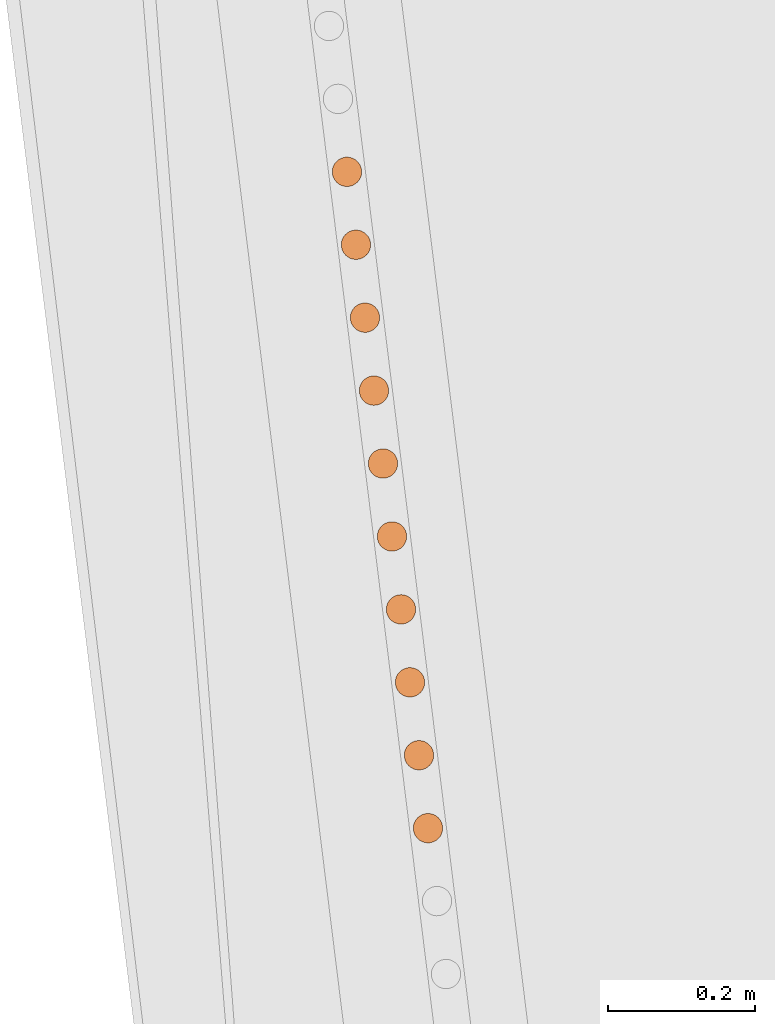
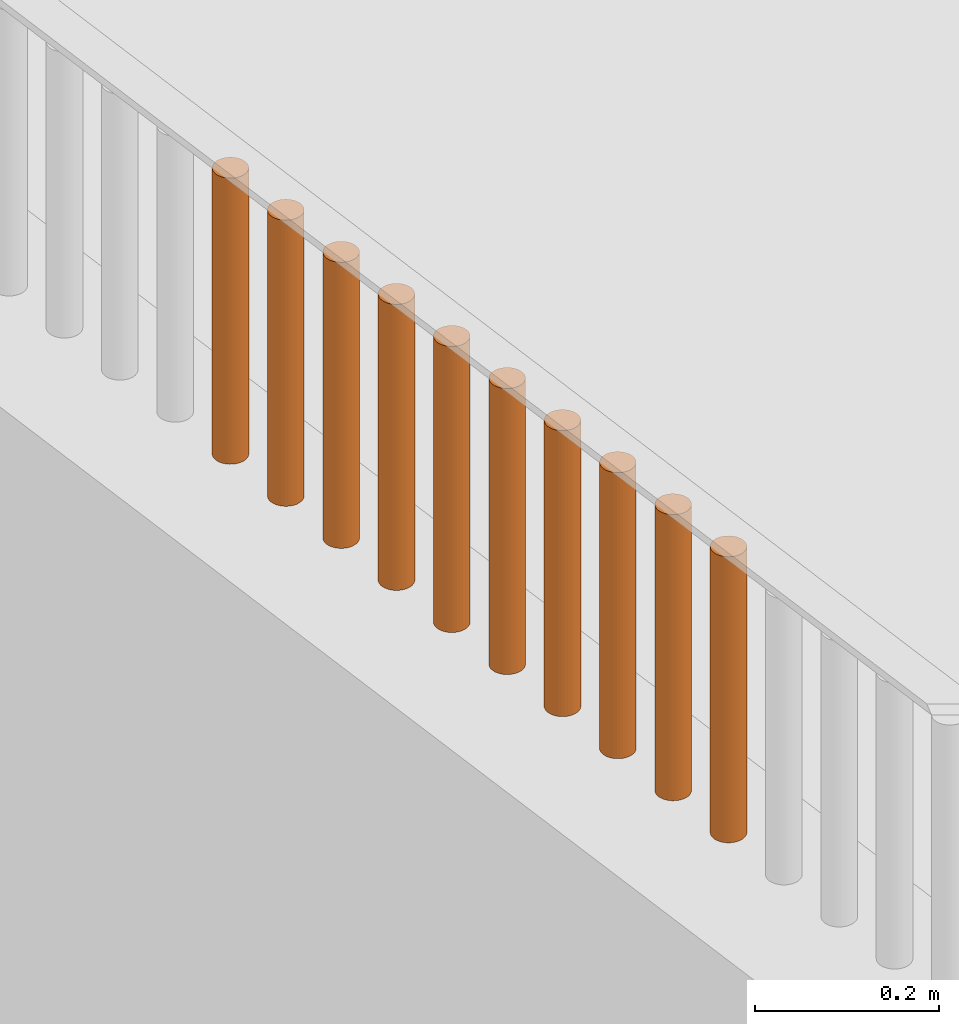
# One storey, part 58 of 1809: 10 proxies, 1 element without a shape of its own.
"""IFC2X3 building model written with IfcOpenShell, lengths in millimetres."""

from ifc_helpers import new_model, entity, si_unit, converted_unit, derived_unit, money_unit, direction, frame, origin_with_axes, place, context, subcontext, project, spatial, faceted_brep, source, transform, mapped, material, type_object, element, aggregate, save


model = new_model("IFC2X3")

# Units and contexts
model_context = context("Model", 3, precision=0.01, world=origin_with_axes(), true_north=direction((0.0, 1.0)))
body_context = subcontext(model_context, "Body", "Model", "MODEL_VIEW")
ifc_project = project(units=[si_unit("LENGTHUNIT", "METRE", prefix="MILLI"), si_unit("AREAUNIT", "SQUARE_METRE"), si_unit("VOLUMEUNIT", "CUBIC_METRE"), converted_unit("PLANEANGLEUNIT", "DEGREE", entity("IfcPlaneAngleMeasure", 0.0174532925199), si_unit("PLANEANGLEUNIT", "RADIAN"), dimensions=[0, 0, 0, 0, 0, 0, 0]), si_unit("SOLIDANGLEUNIT", "STERADIAN"), money_unit("EUR"), converted_unit("TIMEUNIT", "Year", entity("IfcTimeMeasure", 31556926.0), si_unit("TIMEUNIT", "SECOND"), dimensions=[0, 0, 1, 0, 0, 0, 0]), si_unit("MASSUNIT", "GRAM", prefix="KILO"), si_unit("THERMODYNAMICTEMPERATUREUNIT", "DEGREE_CELSIUS"), si_unit("LUMINOUSINTENSITYUNIT", "LUMEN"), si_unit("ENERGYUNIT", "JOULE", prefix="MEGA"), derived_unit("THERMALCONDUCTANCEUNIT", [(si_unit("POWERUNIT", "WATT"), 1), (si_unit("LENGTHUNIT", "METRE"), -1), (si_unit("THERMODYNAMICTEMPERATUREUNIT", "KELVIN"), -1)]), derived_unit("SPECIFICHEATCAPACITYUNIT", [(si_unit("ENERGYUNIT", "JOULE"), 1), (si_unit("MASSUNIT", "GRAM", prefix="KILO"), -1), (si_unit("THERMODYNAMICTEMPERATUREUNIT", "KELVIN"), -1)]), derived_unit("MASSDENSITYUNIT", [(si_unit("MASSUNIT", "GRAM", prefix="KILO"), 1), (si_unit("VOLUMEUNIT", "CUBIC_METRE"), -1)])], contexts=[model_context])

# Site, building, storey
site_placement = place(None, origin_with_axes())
site = spatial("IfcSite", under=ifc_project, at=site_placement, Name="Politse- ja Piirivalveameti ning Päästeameti ühishoone", CompositionType="ELEMENT")
building_placement = place(site_placement, origin_with_axes())
building = spatial("IfcBuilding", under=site, at=building_placement, Name="Politse- ja Piirivalveameti ning Päästeameti ühishoone", CompositionType="ELEMENT")
storey_placement = place(building_placement, origin_with_axes())
storey = spatial("IfcBuildingStorey", under=building, at=storey_placement, Name="Esimene korrus", CompositionType="ELEMENT", Elevation=0.0)

# Proxies
building_element_proxy_type_1 = type_object("IfcBuildingElementProxyType", Name="Railing Type", PredefinedType="NOTDEFINED")
proxy_1_placement = place(storey_placement, frame((-18956.5522504, -53688.4757966, 2100.0), z_axis=(0.0, 0.0, 1.0), x_axis=(1.0, 0.0, 0.0)))
proxy_1 = element("IfcBuildingElementProxy", 1, at=proxy_1_placement, inside=storey, type_object=building_element_proxy_type_1, Name="PIIRDEAED")
ifc_material = material(Name="ET-06_Teras - Konstruktsioon")
building_element_proxy_type_2 = type_object("IfcBuildingElementProxyType", Name="IfcBuildingElementProxy", PredefinedType="NOTDEFINED")
shared_shape_1 = source(origin_with_axes(), body_context, "Body", "Brep", [
    faceted_brep([(0.0, -20.0, 0.0), (3.47296355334, -19.6961550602, 0.0), (3.47296355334, -19.6961550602, 380.000012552), (0.0, -20.0, 380.000012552), (-3.47296355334, -19.6961550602, 0.0), (-6.84040286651, -18.7938524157, 0.0), (-10.0, -17.3205080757, 0.0), (-12.8557521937, -15.3208888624, 0.0), (-15.3208888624, -12.8557521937, 0.0), (-17.3205080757, -10.0, 0.0), (-18.7938524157, -6.84040286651, 0.0), (-19.6961550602, -3.47296355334, 0.0), (-20.0, 0.0, 0.0), (-19.6961550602, 3.47296355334, 0.0), (-18.7938524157, 6.84040286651, 0.0), (-17.3205080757, 10.0, 0.0), (-15.3208888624, 12.8557521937, 0.0), (-12.8557521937, 15.3208888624, 0.0), (-10.0, 17.3205080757, 0.0), (-6.84040286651, 18.7938524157, 0.0), (-3.47296355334, 19.6961550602, 0.0), (0.0, 20.0, 0.0), (3.47296355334, 19.6961550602, 0.0), (6.84040286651, 18.7938524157, 0.0), (10.0, 17.3205080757, 0.0), (12.8557521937, 15.3208888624, 0.0), (15.3208888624, 12.8557521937, 0.0), (17.3205080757, 10.0, 0.0), (18.7938524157, 6.84040286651, 0.0), (19.6961550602, 3.47296355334, 0.0), (20.0, 0.0, 0.0), (19.6961550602, -3.47296355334, 0.0), (18.7938524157, -6.84040286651, 0.0), (17.3205080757, -10.0, 0.0), (15.3208888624, -12.8557521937, 0.0), (12.8557521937, -15.3208888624, 0.0), (10.0, -17.3205080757, 0.0), (6.84040286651, -18.7938524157, 0.0), (6.84040286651, -18.7938524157, 380.000012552), (10.0, -17.3205080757, 380.000012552), (12.8557521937, -15.3208888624, 380.000012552), (15.3208888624, -12.8557521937, 380.000012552), (17.3205080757, -10.0, 380.000012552), (18.7938524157, -6.84040286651, 380.000012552), (19.6961550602, -3.47296355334, 380.000012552), (20.0, 0.0, 380.000012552), (19.6961550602, 3.47296355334, 380.000012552), (18.7938524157, 6.84040286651, 380.000012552), (17.3205080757, 10.0, 380.000012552), (15.3208888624, 12.8557521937, 380.000012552), (12.8557521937, 15.3208888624, 380.000012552), (10.0, 17.3205080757, 380.000012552), (6.84040286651, 18.7938524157, 380.000012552), (3.47296355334, 19.6961550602, 380.000012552), (0.0, 20.0, 380.000012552), (-3.47296355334, 19.6961550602, 380.000012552), (-6.84040286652, 18.7938524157, 380.000012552), (-10.0, 17.3205080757, 380.000012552), (-12.8557521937, 15.3208888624, 380.000012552), (-15.3208888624, 12.8557521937, 380.000012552), (-17.3205080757, 10.0, 380.000012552), (-18.7938524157, 6.84040286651, 380.000012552), (-19.6961550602, 3.47296355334, 380.000012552), (-20.0, 0.0, 380.000012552), (-19.6961550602, -3.47296355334, 380.000012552), (-18.7938524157, -6.84040286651, 380.000012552), (-17.3205080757, -10.0, 380.000012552), (-15.3208888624, -12.8557521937, 380.000012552), (-12.8557521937, -15.3208888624, 380.000012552), (-10.0, -17.3205080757, 380.000012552), (-6.84040286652, -18.7938524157, 380.000012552), (-3.47296355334, -19.6961550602, 380.000012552)], [[[0, 1, 2, 3]], [[0, 4, 5, 6, 7, 8, 9, 10, 11, 12, 13, 14, 15, 16, 17, 18, 19, 20, 21, 22, 23, 24, 25, 26, 27, 28, 29, 30, 31, 32, 33, 34, 35, 36, 37, 1]], [[1, 37, 38, 2]], [[3, 2, 38, 39, 40, 41, 42, 43, 44, 45, 46, 47, 48, 49, 50, 51, 52, 53, 54, 55, 56, 57, 58, 59, 60, 61, 62, 63, 64, 65, 66, 67, 68, 69, 70, 71]], [[4, 0, 3, 71]], [[5, 4, 71, 70]], [[6, 5, 70, 69]], [[7, 6, 69, 68]], [[8, 7, 68, 67]], [[9, 8, 67, 66]], [[10, 9, 66, 65]], [[11, 10, 65, 64]], [[12, 11, 64, 63]], [[13, 12, 63, 62]], [[14, 13, 62, 61]], [[15, 14, 61, 60]], [[16, 15, 60, 59]], [[17, 16, 59, 58]], [[18, 17, 58, 57]], [[19, 18, 57, 56]], [[20, 19, 56, 55]], [[21, 20, 55, 54]], [[22, 21, 54, 53]], [[23, 22, 53, 52]], [[24, 23, 52, 51]], [[25, 24, 51, 50]], [[26, 25, 50, 49]], [[27, 26, 49, 48]], [[28, 27, 48, 47]], [[29, 28, 47, 46]], [[30, 29, 46, 45]], [[31, 30, 45, 44]], [[32, 31, 44, 43]], [[33, 32, 43, 42]], [[34, 33, 42, 41]], [[35, 34, 41, 40]], [[36, 35, 40, 39]], [[37, 36, 39, 38]]]),
])
proxy_2_placement = place(proxy_1_placement, frame((-460.453990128, 2896.3445879, -1.25517001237e-05), z_axis=(0.0, 0.0, 1.0), x_axis=(1.0, 0.0, 0.0)))
proxy_2 = element("IfcBuildingElementProxy", 2, at=proxy_2_placement, type_object=building_element_proxy_type_2, material=ifc_material, Name="BALUSTER - 001", context=body_context, shape_type="MappedRepresentation", body=[
    mapped(shared_shape_1, transform((0.0, 0.0, 0.0), x_axis=(0.992468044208, 0.122503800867, 0.0), y_axis=(-0.122503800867, 0.992468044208, 0.0), z_axis=(0.0, 0.0, 1.0))),
])
proxy_3_placement = place(proxy_1_placement, frame((-497.197104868, 3194.01998217, -1.25517001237e-05), z_axis=(0.0, 0.0, 1.0), x_axis=(1.0, 0.0, 0.0)))
proxy_3 = element("IfcBuildingElementProxy", 3, at=proxy_3_placement, type_object=building_element_proxy_type_2, material=ifc_material, Name="BALUSTER - 001", context=body_context, shape_type="MappedRepresentation", body=[
    mapped(shared_shape_1, transform((0.0, 0.0, 0.0), x_axis=(0.992468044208, 0.122503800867, 0.0), y_axis=(-0.122503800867, 0.992468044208, 0.0), z_axis=(0.0, 0.0, 1.0))),
])
proxy_4_placement = place(proxy_1_placement, frame((-521.692514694, 3392.47024503, -1.25517001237e-05), z_axis=(0.0, 0.0, 1.0), x_axis=(1.0, 0.0, 0.0)))
proxy_4 = element("IfcBuildingElementProxy", 4, at=proxy_4_placement, type_object=building_element_proxy_type_2, material=ifc_material, Name="BALUSTER - 001", context=body_context, shape_type="MappedRepresentation", body=[
    mapped(shared_shape_1, transform((0.0, 0.0, 0.0), x_axis=(0.992468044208, 0.122503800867, 0.0), y_axis=(-0.122503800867, 0.992468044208, 0.0), z_axis=(0.0, 0.0, 1.0))),
])
shared_shape_2 = source(origin_with_axes(), body_context, "Body", "Brep", [
    faceted_brep([(0.0, -20.0, 0.0), (3.47296355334, -19.6961550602, 0.0), (3.47296355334, -19.6961550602, 380.000012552), (0.0, -20.0, 380.000012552), (-3.47296355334, -19.6961550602, 0.0), (-6.84040286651, -18.7938524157, 0.0), (-10.0, -17.3205080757, 0.0), (-12.8557521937, -15.3208888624, 0.0), (-15.3208888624, -12.8557521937, 0.0), (-17.3205080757, -10.0, 0.0), (-18.7938524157, -6.84040286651, 0.0), (-19.6961550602, -3.47296355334, 0.0), (-20.0, 0.0, 0.0), (-19.6961550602, 3.47296355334, 0.0), (-18.7938524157, 6.84040286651, 0.0), (-17.3205080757, 10.0, 0.0), (-15.3208888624, 12.8557521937, 0.0), (-12.8557521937, 15.3208888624, 0.0), (-10.0, 17.3205080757, 0.0), (-6.84040286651, 18.7938524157, 0.0), (-3.47296355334, 19.6961550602, 0.0), (0.0, 20.0, 0.0), (3.47296355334, 19.6961550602, 0.0), (6.84040286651, 18.7938524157, 0.0), (10.0, 17.3205080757, 0.0), (12.8557521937, 15.3208888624, 0.0), (15.3208888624, 12.8557521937, 0.0), (17.3205080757, 10.0, 0.0), (18.7938524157, 6.84040286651, 0.0), (19.6961550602, 3.47296355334, 0.0), (20.0, 0.0, 0.0), (19.6961550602, -3.47296355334, 0.0), (18.7938524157, -6.84040286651, 0.0), (17.3205080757, -10.0, 0.0), (15.3208888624, -12.8557521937, 0.0), (12.8557521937, -15.3208888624, 0.0), (10.0, -17.3205080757, 0.0), (6.84040286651, -18.7938524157, 0.0), (6.84040286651, -18.7938524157, 380.000012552), (10.0, -17.3205080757, 380.000012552), (12.8557521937, -15.3208888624, 380.000012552), (15.3208888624, -12.8557521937, 380.000012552), (17.3205080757, -10.0, 380.000012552), (18.7938524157, -6.84040286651, 380.000012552), (19.6961550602, -3.47296355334, 380.000012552), (20.0, 0.0, 380.000012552), (19.6961550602, 3.47296355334, 380.000012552), (18.7938524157, 6.84040286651, 380.000012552), (17.3205080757, 10.0, 380.000012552), (15.3208888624, 12.8557521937, 380.000012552), (12.8557521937, 15.3208888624, 380.000012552), (10.0, 17.3205080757, 380.000012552), (6.84040286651, 18.7938524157, 380.000012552), (3.47296355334, 19.6961550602, 380.000012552), (0.0, 20.0, 380.000012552), (-3.47296355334, 19.6961550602, 380.000012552), (-6.84040286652, 18.7938524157, 380.000012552), (-10.0, 17.3205080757, 380.000012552), (-12.8557521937, 15.3208888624, 380.000012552), (-15.3208888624, 12.8557521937, 380.000012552), (-17.3205080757, 10.0, 380.000012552), (-18.7938524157, 6.84040286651, 380.000012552), (-19.6961550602, 3.47296355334, 380.000012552), (-20.0, 0.0, 380.000012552), (-19.6961550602, -3.47296355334, 380.000012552), (-18.7938524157, -6.84040286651, 380.000012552), (-17.3205080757, -10.0, 380.000012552), (-15.3208888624, -12.8557521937, 380.000012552), (-12.8557521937, -15.3208888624, 380.000012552), (-10.0, -17.3205080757, 380.000012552), (-6.84040286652, -18.7938524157, 380.000012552), (-3.47296355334, -19.6961550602, 380.000012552)], [[[0, 1, 2, 3]], [[0, 4, 5, 6, 7, 8, 9, 10, 11, 12, 13, 14, 15, 16, 17, 18, 19, 20, 21, 22, 23, 24, 25, 26, 27, 28, 29, 30, 31, 32, 33, 34, 35, 36, 37, 1]], [[1, 37, 38, 2]], [[3, 2, 38, 39, 40, 41, 42, 43, 44, 45, 46, 47, 48, 49, 50, 51, 52, 53, 54, 55, 56, 57, 58, 59, 60, 61, 62, 63, 64, 65, 66, 67, 68, 69, 70, 71]], [[4, 0, 3, 71]], [[5, 4, 71, 70]], [[6, 5, 70, 69]], [[7, 6, 69, 68]], [[8, 7, 68, 67]], [[9, 8, 67, 66]], [[10, 9, 66, 65]], [[11, 10, 65, 64]], [[12, 11, 64, 63]], [[13, 12, 63, 62]], [[14, 13, 62, 61]], [[15, 14, 61, 60]], [[16, 15, 60, 59]], [[17, 16, 59, 58]], [[18, 17, 58, 57]], [[19, 18, 57, 56]], [[20, 19, 56, 55]], [[21, 20, 55, 54]], [[22, 21, 54, 53]], [[23, 22, 53, 52]], [[24, 23, 52, 51]], [[25, 24, 51, 50]], [[26, 25, 50, 49]], [[27, 26, 49, 48]], [[28, 27, 48, 47]], [[29, 28, 47, 46]], [[30, 29, 46, 45]], [[31, 30, 45, 44]], [[32, 31, 44, 43]], [[33, 32, 43, 42]], [[34, 33, 42, 41]], [[35, 34, 41, 40]], [[36, 35, 40, 39]], [[37, 36, 39, 38]]]),
])
proxy_5_placement = place(proxy_1_placement, frame((-448.206285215, 2797.11945647, -1.25517001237e-05), z_axis=(0.0, 0.0, 1.0), x_axis=(1.0, 0.0, 0.0)))
proxy_5 = element("IfcBuildingElementProxy", 5, at=proxy_5_placement, type_object=building_element_proxy_type_2, material=ifc_material, Name="BALUSTER - 001", context=body_context, shape_type="MappedRepresentation", body=[
    mapped(shared_shape_2, transform((0.0, 0.0, 0.0), x_axis=(0.992468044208, 0.122503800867, 0.0), y_axis=(-0.122503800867, 0.992468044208, 0.0), z_axis=(0.0, 0.0, 1.0))),
])
proxy_6_placement = place(proxy_1_placement, frame((-484.949399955, 3094.79485075, -1.25517001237e-05), z_axis=(0.0, 0.0, 1.0), x_axis=(1.0, 0.0, 0.0)))
proxy_6 = element("IfcBuildingElementProxy", 6, at=proxy_6_placement, type_object=building_element_proxy_type_2, material=ifc_material, Name="BALUSTER - 001", context=body_context, shape_type="MappedRepresentation", body=[
    mapped(shared_shape_2, transform((0.0, 0.0, 0.0), x_axis=(0.992468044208, 0.122503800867, 0.0), y_axis=(-0.122503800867, 0.992468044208, 0.0), z_axis=(0.0, 0.0, 1.0))),
])
shared_shape_3 = source(origin_with_axes(), body_context, "Body", "Brep", [
    faceted_brep([(0.0, -20.0, 0.0), (3.47296355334, -19.6961550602, 0.0), (3.47296355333, -19.6961550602, 380.000012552), (0.0, -20.0, 380.000012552), (-3.47296355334, -19.6961550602, 0.0), (-6.84040286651, -18.7938524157, 0.0), (-10.0, -17.3205080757, 0.0), (-12.8557521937, -15.3208888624, 0.0), (-15.3208888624, -12.8557521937, 0.0), (-17.3205080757, -10.0, 0.0), (-18.7938524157, -6.84040286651, 0.0), (-19.6961550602, -3.47296355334, 0.0), (-20.0, 0.0, 0.0), (-19.6961550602, 3.47296355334, 0.0), (-18.7938524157, 6.84040286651, 0.0), (-17.3205080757, 10.0, 0.0), (-15.3208888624, 12.8557521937, 0.0), (-12.8557521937, 15.3208888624, 0.0), (-10.0, 17.3205080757, 0.0), (-6.84040286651, 18.7938524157, 0.0), (-3.47296355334, 19.6961550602, 0.0), (0.0, 20.0, 0.0), (3.47296355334, 19.6961550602, 0.0), (6.84040286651, 18.7938524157, 0.0), (10.0, 17.3205080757, 0.0), (12.8557521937, 15.3208888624, 0.0), (15.3208888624, 12.8557521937, 0.0), (17.3205080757, 10.0, 0.0), (18.7938524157, 6.84040286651, 0.0), (19.6961550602, 3.47296355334, 0.0), (20.0, 0.0, 0.0), (19.6961550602, -3.47296355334, 0.0), (18.7938524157, -6.84040286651, 0.0), (17.3205080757, -10.0, 0.0), (15.3208888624, -12.8557521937, 0.0), (12.8557521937, -15.3208888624, 0.0), (10.0, -17.3205080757, 0.0), (6.84040286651, -18.7938524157, 0.0), (6.84040286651, -18.7938524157, 380.000012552), (9.99999999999, -17.3205080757, 380.000012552), (12.8557521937, -15.3208888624, 380.000012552), (15.3208888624, -12.8557521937, 380.000012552), (17.3205080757, -10.0, 380.000012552), (18.7938524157, -6.84040286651, 380.000012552), (19.6961550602, -3.47296355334, 380.000012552), (20.0, 0.0, 380.000012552), (19.6961550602, 3.47296355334, 380.000012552), (18.7938524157, 6.84040286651, 380.000012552), (17.3205080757, 10.0, 380.000012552), (15.3208888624, 12.8557521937, 380.000012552), (12.8557521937, 15.3208888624, 380.000012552), (9.99999999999, 17.3205080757, 380.000012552), (6.84040286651, 18.7938524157, 380.000012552), (3.47296355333, 19.6961550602, 380.000012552), (0.0, 20.0, 380.000012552), (-3.47296355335, 19.6961550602, 380.000012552), (-6.84040286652, 18.7938524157, 380.000012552), (-10.0, 17.3205080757, 380.000012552), (-12.8557521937, 15.3208888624, 380.000012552), (-15.3208888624, 12.8557521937, 380.000012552), (-17.3205080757, 10.0, 380.000012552), (-18.7938524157, 6.84040286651, 380.000012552), (-19.6961550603, 3.47296355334, 380.000012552), (-20.0, 0.0, 380.000012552), (-19.6961550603, -3.47296355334, 380.000012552), (-18.7938524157, -6.84040286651, 380.000012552), (-17.3205080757, -10.0, 380.000012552), (-15.3208888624, -12.8557521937, 380.000012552), (-12.8557521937, -15.3208888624, 380.000012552), (-10.0, -17.3205080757, 380.000012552), (-6.84040286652, -18.7938524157, 380.000012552), (-3.47296355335, -19.6961550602, 380.000012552)], [[[0, 1, 2, 3]], [[0, 4, 5, 6, 7, 8, 9, 10, 11, 12, 13, 14, 15, 16, 17, 18, 19, 20, 21, 22, 23, 24, 25, 26, 27, 28, 29, 30, 31, 32, 33, 34, 35, 36, 37, 1]], [[1, 37, 38, 2]], [[3, 2, 38, 39, 40, 41, 42, 43, 44, 45, 46, 47, 48, 49, 50, 51, 52, 53, 54, 55, 56, 57, 58, 59, 60, 61, 62, 63, 64, 65, 66, 67, 68, 69, 70, 71]], [[4, 0, 3, 71]], [[5, 4, 71, 70]], [[6, 5, 70, 69]], [[7, 6, 69, 68]], [[8, 7, 68, 67]], [[9, 8, 67, 66]], [[10, 9, 66, 65]], [[11, 10, 65, 64]], [[12, 11, 64, 63]], [[13, 12, 63, 62]], [[14, 13, 62, 61]], [[15, 14, 61, 60]], [[16, 15, 60, 59]], [[17, 16, 59, 58]], [[18, 17, 58, 57]], [[19, 18, 57, 56]], [[20, 19, 56, 55]], [[21, 20, 55, 54]], [[22, 21, 54, 53]], [[23, 22, 53, 52]], [[24, 23, 52, 51]], [[25, 24, 51, 50]], [[26, 25, 50, 49]], [[27, 26, 49, 48]], [[28, 27, 48, 47]], [[29, 28, 47, 46]], [[30, 29, 46, 45]], [[31, 30, 45, 44]], [[32, 31, 44, 43]], [[33, 32, 43, 42]], [[34, 33, 42, 41]], [[35, 34, 41, 40]], [[36, 35, 40, 39]], [[37, 36, 39, 38]]]),
])
proxy_7_placement = place(proxy_1_placement, frame((-546.18792452, 3590.92050788, -1.25517001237e-05), z_axis=(0.0, 0.0, 1.0), x_axis=(1.0, 0.0, 0.0)))
proxy_7 = element("IfcBuildingElementProxy", 7, at=proxy_7_placement, type_object=building_element_proxy_type_2, material=ifc_material, Name="BALUSTER - 001", context=body_context, shape_type="MappedRepresentation", body=[
    mapped(shared_shape_3, transform((0.0, 0.0, 0.0), x_axis=(0.992468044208, 0.122503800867, 0.0), y_axis=(-0.122503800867, 0.992468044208, 0.0), z_axis=(0.0, 0.0, 1.0))),
])
shared_shape_4 = source(origin_with_axes(), body_context, "Body", "Brep", [
    faceted_brep([(0.0, -20.0, 0.0), (3.47296355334, -19.6961550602, 0.0), (3.47296355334, -19.6961550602, 380.000012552), (0.0, -20.0, 380.000012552), (-3.47296355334, -19.6961550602, 0.0), (-6.84040286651, -18.7938524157, 0.0), (-10.0, -17.3205080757, 0.0), (-12.8557521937, -15.3208888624, 0.0), (-15.3208888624, -12.8557521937, 0.0), (-17.3205080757, -10.0, 0.0), (-18.7938524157, -6.84040286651, 0.0), (-19.6961550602, -3.47296355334, 0.0), (-20.0, 0.0, 0.0), (-19.6961550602, 3.47296355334, 0.0), (-18.7938524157, 6.84040286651, 0.0), (-17.3205080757, 10.0, 0.0), (-15.3208888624, 12.8557521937, 0.0), (-12.8557521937, 15.3208888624, 0.0), (-10.0, 17.3205080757, 0.0), (-6.84040286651, 18.7938524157, 0.0), (-3.47296355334, 19.6961550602, 0.0), (0.0, 20.0, 0.0), (3.47296355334, 19.6961550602, 0.0), (6.84040286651, 18.7938524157, 0.0), (10.0, 17.3205080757, 0.0), (12.8557521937, 15.3208888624, 0.0), (15.3208888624, 12.8557521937, 0.0), (17.3205080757, 10.0, 0.0), (18.7938524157, 6.84040286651, 0.0), (19.6961550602, 3.47296355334, 0.0), (20.0, 0.0, 0.0), (19.6961550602, -3.47296355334, 0.0), (18.7938524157, -6.84040286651, 0.0), (17.3205080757, -10.0, 0.0), (15.3208888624, -12.8557521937, 0.0), (12.8557521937, -15.3208888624, 0.0), (10.0, -17.3205080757, 0.0), (6.84040286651, -18.7938524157, 0.0), (6.84040286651, -18.7938524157, 380.000012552), (10.0, -17.3205080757, 380.000012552), (12.8557521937, -15.3208888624, 380.000012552), (15.3208888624, -12.8557521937, 380.000012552), (17.3205080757, -10.0, 380.000012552), (18.7938524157, -6.84040286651, 380.000012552), (19.6961550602, -3.47296355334, 380.000012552), (20.0, 0.0, 380.000012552), (19.6961550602, 3.47296355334, 380.000012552), (18.7938524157, 6.84040286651, 380.000012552), (17.3205080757, 10.0, 380.000012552), (15.3208888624, 12.8557521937, 380.000012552), (12.8557521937, 15.3208888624, 380.000012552), (10.0, 17.3205080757, 380.000012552), (6.84040286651, 18.7938524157, 380.000012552), (3.47296355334, 19.6961550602, 380.000012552), (0.0, 20.0, 380.000012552), (-3.47296355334, 19.6961550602, 380.000012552), (-6.84040286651, 18.7938524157, 380.000012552), (-10.0, 17.3205080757, 380.000012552), (-12.8557521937, 15.3208888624, 380.000012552), (-15.3208888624, 12.8557521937, 380.000012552), (-17.3205080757, 10.0, 380.000012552), (-18.7938524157, 6.84040286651, 380.000012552), (-19.6961550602, 3.47296355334, 380.000012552), (-20.0, 0.0, 380.000012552), (-19.6961550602, -3.47296355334, 380.000012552), (-18.7938524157, -6.84040286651, 380.000012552), (-17.3205080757, -10.0, 380.000012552), (-15.3208888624, -12.8557521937, 380.000012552), (-12.8557521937, -15.3208888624, 380.000012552), (-10.0, -17.3205080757, 380.000012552), (-6.84040286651, -18.7938524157, 380.000012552), (-3.47296355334, -19.6961550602, 380.000012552)], [[[0, 1, 2, 3]], [[0, 4, 5, 6, 7, 8, 9, 10, 11, 12, 13, 14, 15, 16, 17, 18, 19, 20, 21, 22, 23, 24, 25, 26, 27, 28, 29, 30, 31, 32, 33, 34, 35, 36, 37, 1]], [[1, 37, 38, 2]], [[3, 2, 38, 39, 40, 41, 42, 43, 44, 45, 46, 47, 48, 49, 50, 51, 52, 53, 54, 55, 56, 57, 58, 59, 60, 61, 62, 63, 64, 65, 66, 67, 68, 69, 70, 71]], [[4, 0, 3, 71]], [[5, 4, 71, 70]], [[6, 5, 70, 69]], [[7, 6, 69, 68]], [[8, 7, 68, 67]], [[9, 8, 67, 66]], [[10, 9, 66, 65]], [[11, 10, 65, 64]], [[12, 11, 64, 63]], [[13, 12, 63, 62]], [[14, 13, 62, 61]], [[15, 14, 61, 60]], [[16, 15, 60, 59]], [[17, 16, 59, 58]], [[18, 17, 58, 57]], [[19, 18, 57, 56]], [[20, 19, 56, 55]], [[21, 20, 55, 54]], [[22, 21, 54, 53]], [[23, 22, 53, 52]], [[24, 23, 52, 51]], [[25, 24, 51, 50]], [[26, 25, 50, 49]], [[27, 26, 49, 48]], [[28, 27, 48, 47]], [[29, 28, 47, 46]], [[30, 29, 46, 45]], [[31, 30, 45, 44]], [[32, 31, 44, 43]], [[33, 32, 43, 42]], [[34, 33, 42, 41]], [[35, 34, 41, 40]], [[36, 35, 40, 39]], [[37, 36, 39, 38]]]),
])
proxy_8_placement = place(proxy_1_placement, frame((-472.701695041, 2995.56971932, -1.25517001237e-05), z_axis=(0.0, 0.0, 1.0), x_axis=(1.0, 0.0, 0.0)))
proxy_8 = element("IfcBuildingElementProxy", 8, at=proxy_8_placement, type_object=building_element_proxy_type_2, material=ifc_material, Name="BALUSTER - 001", context=body_context, shape_type="MappedRepresentation", body=[
    mapped(shared_shape_4, transform((0.0, 0.0, 0.0), x_axis=(0.992468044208, 0.122503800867, 0.0), y_axis=(-0.122503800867, 0.992468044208, 0.0), z_axis=(0.0, 0.0, 1.0))),
])
proxy_9_placement = place(proxy_1_placement, frame((-509.444809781, 3293.2451136, -1.25517001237e-05), z_axis=(0.0, 0.0, 1.0), x_axis=(1.0, 0.0, 0.0)))
proxy_9 = element("IfcBuildingElementProxy", 9, at=proxy_9_placement, type_object=building_element_proxy_type_2, material=ifc_material, Name="BALUSTER - 001", context=body_context, shape_type="MappedRepresentation", body=[
    mapped(shared_shape_4, transform((0.0, 0.0, 0.0), x_axis=(0.992468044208, 0.122503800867, 0.0), y_axis=(-0.122503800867, 0.992468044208, 0.0), z_axis=(0.0, 0.0, 1.0))),
])
shared_shape_5 = source(origin_with_axes(), body_context, "Body", "Brep", [
    faceted_brep([(0.0, -20.0, 0.0), (3.47296355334, -19.6961550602, 0.0), (3.47296355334, -19.6961550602, 380.000012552), (0.0, -20.0, 380.000012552), (-3.47296355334, -19.6961550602, 0.0), (-6.84040286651, -18.7938524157, 0.0), (-10.0, -17.3205080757, 0.0), (-12.8557521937, -15.3208888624, 0.0), (-15.3208888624, -12.8557521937, 0.0), (-17.3205080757, -10.0, 0.0), (-18.7938524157, -6.84040286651, 0.0), (-19.6961550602, -3.47296355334, 0.0), (-20.0, 0.0, 0.0), (-19.6961550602, 3.47296355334, 0.0), (-18.7938524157, 6.84040286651, 0.0), (-17.3205080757, 10.0, 0.0), (-15.3208888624, 12.8557521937, 0.0), (-12.8557521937, 15.3208888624, 0.0), (-10.0, 17.3205080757, 0.0), (-6.84040286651, 18.7938524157, 0.0), (-3.47296355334, 19.6961550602, 0.0), (0.0, 20.0, 0.0), (3.47296355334, 19.6961550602, 0.0), (6.84040286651, 18.7938524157, 0.0), (10.0, 17.3205080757, 0.0), (12.8557521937, 15.3208888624, 0.0), (15.3208888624, 12.8557521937, 0.0), (17.3205080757, 10.0, 0.0), (18.7938524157, 6.84040286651, 0.0), (19.6961550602, 3.47296355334, 0.0), (20.0, 0.0, 0.0), (19.6961550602, -3.47296355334, 0.0), (18.7938524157, -6.84040286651, 0.0), (17.3205080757, -10.0, 0.0), (15.3208888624, -12.8557521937, 0.0), (12.8557521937, -15.3208888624, 0.0), (10.0, -17.3205080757, 0.0), (6.84040286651, -18.7938524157, 0.0), (6.84040286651, -18.7938524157, 380.000012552), (10.0, -17.3205080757, 380.000012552), (12.8557521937, -15.3208888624, 380.000012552), (15.3208888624, -12.8557521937, 380.000012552), (17.3205080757, -10.0, 380.000012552), (18.7938524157, -6.84040286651, 380.000012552), (19.6961550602, -3.47296355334, 380.000012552), (20.0, 0.0, 380.000012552), (19.6961550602, 3.47296355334, 380.000012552), (18.7938524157, 6.84040286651, 380.000012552), (17.3205080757, 10.0, 380.000012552), (15.3208888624, 12.8557521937, 380.000012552), (12.8557521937, 15.3208888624, 380.000012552), (10.0, 17.3205080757, 380.000012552), (6.84040286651, 18.7938524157, 380.000012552), (3.47296355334, 19.6961550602, 380.000012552), (0.0, 20.0, 380.000012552), (-3.47296355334, 19.6961550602, 380.000012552), (-6.84040286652, 18.7938524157, 380.000012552), (-10.0, 17.3205080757, 380.000012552), (-12.8557521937, 15.3208888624, 380.000012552), (-15.3208888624, 12.8557521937, 380.000012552), (-17.3205080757, 10.0, 380.000012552), (-18.7938524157, 6.84040286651, 380.000012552), (-19.6961550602, 3.47296355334, 380.000012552), (-20.0, 0.0, 380.000012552), (-19.6961550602, -3.47296355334, 380.000012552), (-18.7938524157, -6.84040286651, 380.000012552), (-17.3205080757, -10.0, 380.000012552), (-15.3208888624, -12.8557521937, 380.000012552), (-12.8557521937, -15.3208888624, 380.000012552), (-10.0, -17.3205080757, 380.000012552), (-6.84040286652, -18.7938524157, 380.000012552), (-3.47296355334, -19.6961550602, 380.000012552)], [[[0, 1, 2, 3]], [[0, 4, 5, 6, 7, 8, 9, 10, 11, 12, 13, 14, 15, 16, 17, 18, 19, 20, 21, 22, 23, 24, 25, 26, 27, 28, 29, 30, 31, 32, 33, 34, 35, 36, 37, 1]], [[1, 37, 38, 2]], [[3, 2, 38, 39, 40, 41, 42, 43, 44, 45, 46, 47, 48, 49, 50, 51, 52, 53, 54, 55, 56, 57, 58, 59, 60, 61, 62, 63, 64, 65, 66, 67, 68, 69, 70, 71]], [[4, 0, 3, 71]], [[5, 4, 71, 70]], [[6, 5, 70, 69]], [[7, 6, 69, 68]], [[8, 7, 68, 67]], [[9, 8, 67, 66]], [[10, 9, 66, 65]], [[11, 10, 65, 64]], [[12, 11, 64, 63]], [[13, 12, 63, 62]], [[14, 13, 62, 61]], [[15, 14, 61, 60]], [[16, 15, 60, 59]], [[17, 16, 59, 58]], [[18, 17, 58, 57]], [[19, 18, 57, 56]], [[20, 19, 56, 55]], [[21, 20, 55, 54]], [[22, 21, 54, 53]], [[23, 22, 53, 52]], [[24, 23, 52, 51]], [[25, 24, 51, 50]], [[26, 25, 50, 49]], [[27, 26, 49, 48]], [[28, 27, 48, 47]], [[29, 28, 47, 46]], [[30, 29, 46, 45]], [[31, 30, 45, 44]], [[32, 31, 44, 43]], [[33, 32, 43, 42]], [[34, 33, 42, 41]], [[35, 34, 41, 40]], [[36, 35, 40, 39]], [[37, 36, 39, 38]]]),
])
proxy_10_placement = place(proxy_1_placement, frame((-435.958580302, 2697.89432505, -1.25517001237e-05), z_axis=(0.0, 0.0, 1.0), x_axis=(1.0, 0.0, 0.0)))
proxy_10 = element("IfcBuildingElementProxy", 10, at=proxy_10_placement, type_object=building_element_proxy_type_2, material=ifc_material, Name="BALUSTER - 001", context=body_context, shape_type="MappedRepresentation", body=[
    mapped(shared_shape_5, transform((0.0, 0.0, 0.0), x_axis=(0.992468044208, 0.122503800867, 0.0), y_axis=(-0.122503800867, 0.992468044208, 0.0), z_axis=(0.0, 0.0, 1.0))),
])
shared_shape_6 = source(origin_with_axes(), body_context, "Body", "Brep", [
    faceted_brep([(0.0, -20.0, 0.0), (3.47296355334, -19.6961550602, 0.0), (3.47296355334, -19.6961550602, 380.000012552), (0.0, -20.0, 380.000012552), (-3.47296355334, -19.6961550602, 0.0), (-6.84040286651, -18.7938524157, 0.0), (-10.0, -17.3205080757, 0.0), (-12.8557521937, -15.3208888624, 0.0), (-15.3208888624, -12.8557521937, 0.0), (-17.3205080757, -10.0, 0.0), (-18.7938524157, -6.84040286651, 0.0), (-19.6961550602, -3.47296355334, 0.0), (-20.0, 0.0, 0.0), (-19.6961550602, 3.47296355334, 0.0), (-18.7938524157, 6.84040286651, 0.0), (-17.3205080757, 10.0, 0.0), (-15.3208888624, 12.8557521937, 0.0), (-12.8557521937, 15.3208888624, 0.0), (-10.0, 17.3205080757, 0.0), (-6.84040286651, 18.7938524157, 0.0), (-3.47296355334, 19.6961550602, 0.0), (0.0, 20.0, 0.0), (3.47296355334, 19.6961550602, 0.0), (6.84040286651, 18.7938524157, 0.0), (10.0, 17.3205080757, 0.0), (12.8557521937, 15.3208888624, 0.0), (15.3208888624, 12.8557521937, 0.0), (17.3205080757, 10.0, 0.0), (18.7938524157, 6.84040286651, 0.0), (19.6961550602, 3.47296355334, 0.0), (20.0, 0.0, 0.0), (19.6961550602, -3.47296355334, 0.0), (18.7938524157, -6.84040286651, 0.0), (17.3205080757, -10.0, 0.0), (15.3208888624, -12.8557521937, 0.0), (12.8557521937, -15.3208888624, 0.0), (10.0, -17.3205080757, 0.0), (6.84040286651, -18.7938524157, 0.0), (6.84040286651, -18.7938524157, 380.000012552), (10.0, -17.3205080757, 380.000012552), (12.8557521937, -15.3208888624, 380.000012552), (15.3208888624, -12.8557521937, 380.000012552), (17.3205080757, -10.0, 380.000012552), (18.7938524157, -6.84040286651, 380.000012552), (19.6961550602, -3.47296355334, 380.000012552), (20.0, 0.0, 380.000012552), (19.6961550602, 3.47296355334, 380.000012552), (18.7938524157, 6.84040286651, 380.000012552), (17.3205080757, 10.0, 380.000012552), (15.3208888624, 12.8557521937, 380.000012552), (12.8557521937, 15.3208888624, 380.000012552), (10.0, 17.3205080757, 380.000012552), (6.84040286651, 18.7938524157, 380.000012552), (3.47296355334, 19.6961550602, 380.000012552), (0.0, 20.0, 380.000012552), (-3.47296355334, 19.6961550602, 380.000012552), (-6.84040286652, 18.7938524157, 380.000012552), (-10.0, 17.3205080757, 380.000012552), (-12.8557521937, 15.3208888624, 380.000012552), (-15.3208888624, 12.8557521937, 380.000012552), (-17.3205080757, 10.0, 380.000012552), (-18.7938524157, 6.84040286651, 380.000012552), (-19.6961550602, 3.47296355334, 380.000012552), (-20.0, 0.0, 380.000012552), (-19.6961550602, -3.47296355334, 380.000012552), (-18.7938524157, -6.84040286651, 380.000012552), (-17.3205080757, -10.0, 380.000012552), (-15.3208888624, -12.8557521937, 380.000012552), (-12.8557521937, -15.3208888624, 380.000012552), (-10.0, -17.3205080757, 380.000012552), (-6.84040286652, -18.7938524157, 380.000012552), (-3.47296355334, -19.6961550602, 380.000012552)], [[[0, 1, 2, 3]], [[0, 4, 5, 6, 7, 8, 9, 10, 11, 12, 13, 14, 15, 16, 17, 18, 19, 20, 21, 22, 23, 24, 25, 26, 27, 28, 29, 30, 31, 32, 33, 34, 35, 36, 37, 1]], [[1, 37, 38, 2]], [[3, 2, 38, 39, 40, 41, 42, 43, 44, 45, 46, 47, 48, 49, 50, 51, 52, 53, 54, 55, 56, 57, 58, 59, 60, 61, 62, 63, 64, 65, 66, 67, 68, 69, 70, 71]], [[4, 0, 3, 71]], [[5, 4, 71, 70]], [[6, 5, 70, 69]], [[7, 6, 69, 68]], [[8, 7, 68, 67]], [[9, 8, 67, 66]], [[10, 9, 66, 65]], [[11, 10, 65, 64]], [[12, 11, 64, 63]], [[13, 12, 63, 62]], [[14, 13, 62, 61]], [[15, 14, 61, 60]], [[16, 15, 60, 59]], [[17, 16, 59, 58]], [[18, 17, 58, 57]], [[19, 18, 57, 56]], [[20, 19, 56, 55]], [[21, 20, 55, 54]], [[22, 21, 54, 53]], [[23, 22, 53, 52]], [[24, 23, 52, 51]], [[25, 24, 51, 50]], [[26, 25, 50, 49]], [[27, 26, 49, 48]], [[28, 27, 48, 47]], [[29, 28, 47, 46]], [[30, 29, 46, 45]], [[31, 30, 45, 44]], [[32, 31, 44, 43]], [[33, 32, 43, 42]], [[34, 33, 42, 41]], [[35, 34, 41, 40]], [[36, 35, 40, 39]], [[37, 36, 39, 38]]]),
])
proxy_11_placement = place(proxy_1_placement, frame((-533.940219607, 3491.69537645, -1.25517001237e-05), z_axis=(0.0, 0.0, 1.0), x_axis=(1.0, 0.0, 0.0)))
proxy_11 = element("IfcBuildingElementProxy", 11, at=proxy_11_placement, type_object=building_element_proxy_type_2, material=ifc_material, Name="BALUSTER - 001", context=body_context, shape_type="MappedRepresentation", body=[
    mapped(shared_shape_6, transform((0.0, 0.0, 0.0), x_axis=(0.992468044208, 0.122503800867, 0.0), y_axis=(-0.122503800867, 0.992468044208, 0.0), z_axis=(0.0, 0.0, 1.0))),
])
aggregate(proxy_1, [proxy_10, proxy_5, proxy_2, proxy_8, proxy_6, proxy_3, proxy_9, proxy_4, proxy_11, proxy_7])

save(model, "model.ifc")
